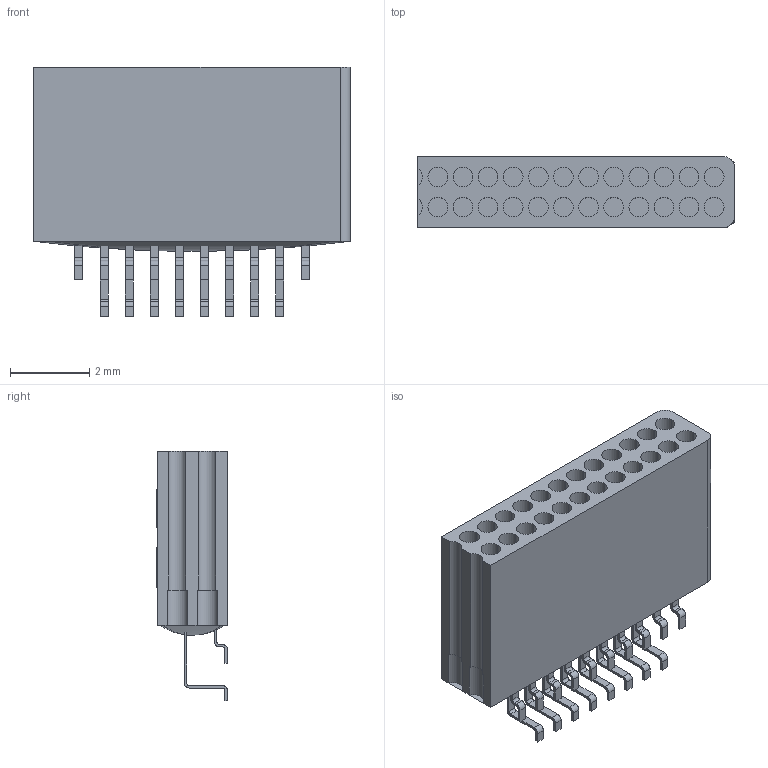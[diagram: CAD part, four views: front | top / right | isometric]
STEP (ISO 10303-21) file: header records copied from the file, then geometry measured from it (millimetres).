
FILE_DESCRIPTION (( 'STEP AP214' ), '1' );
FILE_NAME ('A79016-001 REV D.STEP', '2015-11-05T20:03:36', ( '' ), ( '' ), 'SwSTEP 2.0', 'SolidWorks 2015', '' );
FILE_SCHEMA (( 'AUTOMOTIVE_DESIGN' ));
Length unit declared in the file: inch
Products named in the file (1): A79016-001
Bounding box: 8 x 1.79 x 6.3 mm (x, y, z)
Volume: 42.3 mm3; surface area: 305.3 mm2
Topology: 1 solids, 1 shells, 565 faces, 1453 edges, 961 vertices
Faces by surface type: plane 333, cylinder 178, bspline 54
Entity records: 19793 total; most frequent: CARTESIAN_POINT 6024, ORIENTED_EDGE 2898, DIRECTION 2731, EDGE_CURVE 1449, VERTEX_POINT 961, VECTOR 935, LINE 935, AXIS2_PLACEMENT_3D 898
